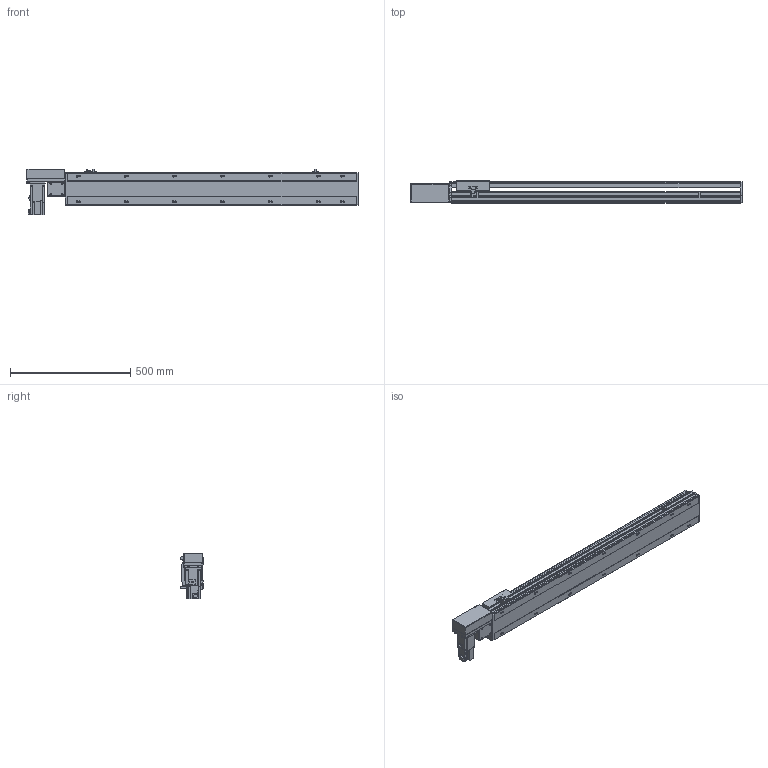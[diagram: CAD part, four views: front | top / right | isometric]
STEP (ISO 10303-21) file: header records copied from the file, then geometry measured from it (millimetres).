
FILE_DESCRIPTION( ( 'STEP AP214' ), '1' );
FILE_NAME( 'x:/temp/worker_6/temp/exporttempdir_5396_58_d7dVN/format_0/PBS140S-P40-S950-R-T40-C1-N(0).stp', '2022-06-09T00:14:43', ( 'License CC BY-ND 4.0' ), ( 'CADENAS' ), ' ', 'PARTsolutions', ' ' );
FILE_SCHEMA( ( 'AUTOMOTIVE_DESIGN { 1 0 10303 214 1 1 1 1 }' ) );
Length unit declared in the file: millimetre
Products named in the file (7): PBS140S-P40-S950-R-T40-C1-N(0); _PBS140S-S950()_body; _PBS140ST-R_motors; _T40-p1; _PBS140S_sliser; _PBS140S_plant; _PBS140S_sensor
Assembly tree (8 placements, depth 2):
  PBS140S-P40-S950-R-T40-C1-N(0)
    _PBS140S-S950()_body
    _PBS140ST-R_motors
    _T40-p1
    _PBS140S_sliser
    _PBS140S_plant
    _PBS140S_sensor  x3
Bounding box: 1383 x 93 x 189.7 mm (x, y, z)
Volume: 6811223.8 mm3; surface area: 1182064.2 mm2
Topology: 8 solids, 8 shells, 1083 faces, 2871 edges, 1879 vertices
Faces by surface type: plane 696, cylinder 337, cone 40, sphere 8, torus 2
Full cylindrical faces by diameter (mm): 3.242 x4, 4 x2, 4.134 x4, 4.4 x8, 4.5 x2, 4.8 x4, 4.917 x22, 5.5 x7, 6 x2, 7 x16, 7.5 x8, 8 x12, 8.5 x4, 10.5 x14, 14 x1, 30 x2, 50 x2
Entity records: 39694 total; most frequent: CARTESIAN_POINT 6238, DIRECTION 5278, ORIENTED_EDGE 5002, EDGE_CURVE 2501, AXIS2_PLACEMENT_3D 1829, VERTEX_POINT 1729, LINE 1620, VECTOR 1620
